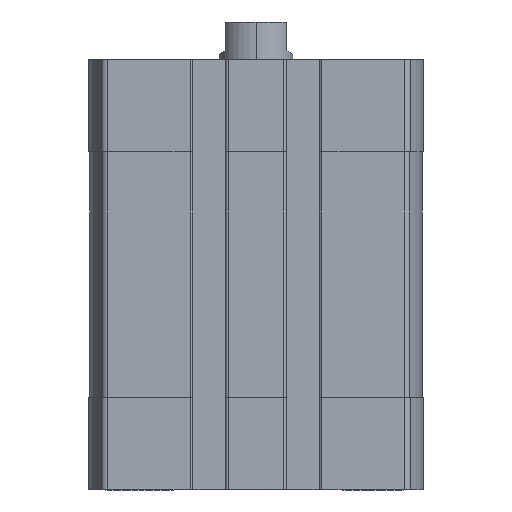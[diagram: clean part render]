
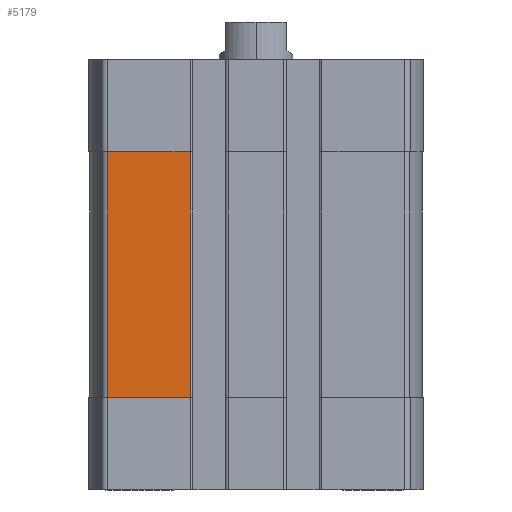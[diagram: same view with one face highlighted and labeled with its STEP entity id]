
A CAD part, left-side view. The second image highlights one B-rep face of the part: STEP entity #5179.
In plain terms, the highlighted planar face has unit normal (-1, 0, 0).
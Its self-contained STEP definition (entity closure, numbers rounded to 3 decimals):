
#597 = ORIENTED_EDGE ( 'NONE', *, *, #10065, .T. ) ;
#822 = EDGE_CURVE ( 'NONE', #5577, #8241, #12935, .T. ) ;
#968 = ORIENTED_EDGE ( 'NONE', *, *, #13337, .T. ) ;
#1063 = VERTEX_POINT ( 'NONE', #2184 ) ;
#1543 = DIRECTION ( 'NONE',  ( 0., 0., 1. ) ) ;
#2184 = CARTESIAN_POINT ( 'NONE',  ( -27., 24.093, -15. ) ) ;
#2275 = LINE ( 'NONE', #10120, #6387 ) ;
#3728 = DIRECTION ( 'NONE',  ( 0., -1., 0. ) ) ;
#3825 = CARTESIAN_POINT ( 'NONE',  ( -27., 24.093, -55. ) ) ;
#4129 = AXIS2_PLACEMENT_3D ( 'NONE', #8287, #12756, #12704 ) ;
#5179 = ADVANCED_FACE ( 'NONE', ( #10644 ), #13405, .T. ) ;
#5577 = VERTEX_POINT ( 'NONE', #13944 ) ;
#6175 = ORIENTED_EDGE ( 'NONE', *, *, #14800, .T. ) ;
#6387 = VECTOR ( 'NONE', #1543, 1000. ) ;
#7416 = DIRECTION ( 'NONE',  ( 0., 1., 0. ) ) ;
#7532 = EDGE_LOOP ( 'NONE', ( #13138, #968, #6175, #597 ) ) ;
#7633 = VECTOR ( 'NONE', #7416, 1000. ) ;
#8241 = VERTEX_POINT ( 'NONE', #13080 ) ;
#8287 = CARTESIAN_POINT ( 'NONE',  ( -27., 24.093, -55. ) ) ;
#10065 = EDGE_CURVE ( 'NONE', #1063, #5577, #11931, .T. ) ;
#10120 = CARTESIAN_POINT ( 'NONE',  ( -27., 10.7, -55. ) ) ;
#10609 = VERTEX_POINT ( 'NONE', #14871 ) ;
#10644 = FACE_OUTER_BOUND ( 'NONE', #7532, .T. ) ;
#10837 = LINE ( 'NONE', #10988, #7633 ) ;
#10988 = CARTESIAN_POINT ( 'NONE',  ( -27., 0., -15. ) ) ;
#11931 = LINE ( 'NONE', #3825, #13933 ) ;
#12704 = DIRECTION ( 'NONE',  ( 0., 0., 1. ) ) ;
#12756 = DIRECTION ( 'NONE',  ( -1., 0., 0. ) ) ;
#12935 = LINE ( 'NONE', #14000, #13288 ) ;
#13080 = CARTESIAN_POINT ( 'NONE',  ( -27., 10.7, -55. ) ) ;
#13138 = ORIENTED_EDGE ( 'NONE', *, *, #822, .T. ) ;
#13288 = VECTOR ( 'NONE', #3728, 1000. ) ;
#13337 = EDGE_CURVE ( 'NONE', #8241, #10609, #2275, .T. ) ;
#13405 = PLANE ( 'NONE',  #4129 ) ;
#13423 = DIRECTION ( 'NONE',  ( 0., 0., -1. ) ) ;
#13933 = VECTOR ( 'NONE', #13423, 1000. ) ;
#13944 = CARTESIAN_POINT ( 'NONE',  ( -27., 24.093, -55. ) ) ;
#14000 = CARTESIAN_POINT ( 'NONE',  ( -27., 24.093, -55. ) ) ;
#14800 = EDGE_CURVE ( 'NONE', #10609, #1063, #10837, .T. ) ;
#14871 = CARTESIAN_POINT ( 'NONE',  ( -27., 10.7, -15. ) ) ;
